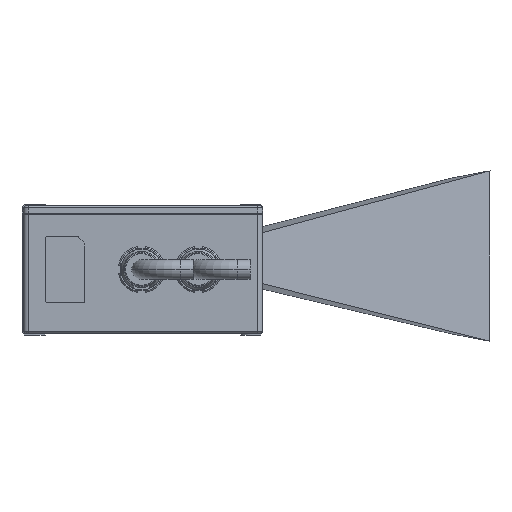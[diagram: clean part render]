
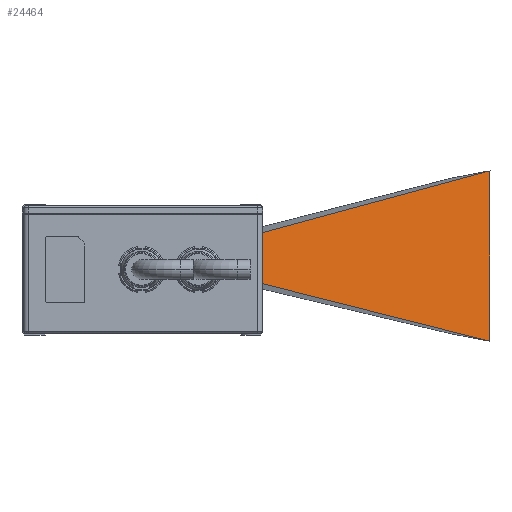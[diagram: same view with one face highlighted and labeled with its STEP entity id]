
A CAD part, left-side view. The second image highlights one B-rep face of the part: STEP entity #24464.
In plain terms, the highlighted planar face has unit normal (-0.801, -0.598, 0).
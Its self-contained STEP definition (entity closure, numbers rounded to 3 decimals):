
#24371=DIRECTION('',(0.585,-0.783,0.213));
#24372=VECTOR('',#24371,120.366);
#24373=CARTESIAN_POINT('',(77.842,94.25,
-25.586));
#24374=LINE('',#24373,#24372);
#24375=DIRECTION('',(0.,0.,-1.));
#24376=VECTOR('',#24375,65.8);
#24377=CARTESIAN_POINT('',(148.2,0.,
0.));
#24378=LINE('',#24377,#24376);
#24379=DIRECTION('',(-0.586,0.785,0.198));
#24380=VECTOR('',#24379,119.996);
#24381=CARTESIAN_POINT('',(148.2,0.,-65.8));
#24382=LINE('',#24381,#24380);
#24383=DIRECTION('',(0.,0.,1.));
#24384=VECTOR('',#24383,16.429);
#24385=CARTESIAN_POINT('',(77.842,94.25,
-42.014));
#24386=LINE('',#24385,#24384);
#24411=CARTESIAN_POINT('',(77.842,94.25,
-42.014));
#24412=CARTESIAN_POINT('',(77.842,94.25,
-25.586));
#24413=VERTEX_POINT('',#24411);
#24414=VERTEX_POINT('',#24412);
#24419=CARTESIAN_POINT('',(148.2,0.,
0.));
#24420=CARTESIAN_POINT('',(148.2,0.,-65.8));
#24421=VERTEX_POINT('',#24419);
#24422=VERTEX_POINT('',#24420);
#24450=CARTESIAN_POINT('',(113.021,47.125,-32.9));
#24451=DIRECTION('',(0.801,0.598,0.));
#24452=DIRECTION('',(0.,0.,-1.));
#24453=AXIS2_PLACEMENT_3D('',#24450,#24451,#24452);
#24454=PLANE('',#24453);
#24456=ORIENTED_EDGE('',*,*,#24455,.T.);
#24457=ORIENTED_EDGE('',*,*,#24432,.T.);
#24459=ORIENTED_EDGE('',*,*,#24458,.T.);
#24461=ORIENTED_EDGE('',*,*,#24460,.T.);
#24462=EDGE_LOOP('',(#24456,#24457,#24459,#24461));
#24463=FACE_OUTER_BOUND('',#24462,.F.);
#24432=EDGE_CURVE('',#24421,#24422,#24378,.T.);
#24455=EDGE_CURVE('',#24414,#24421,#24374,.T.);
#24458=EDGE_CURVE('',#24422,#24413,#24382,.T.);
#24460=EDGE_CURVE('',#24413,#24414,#24386,.T.);
#24464=ADVANCED_FACE('',(#24463),#24454,.F.);
